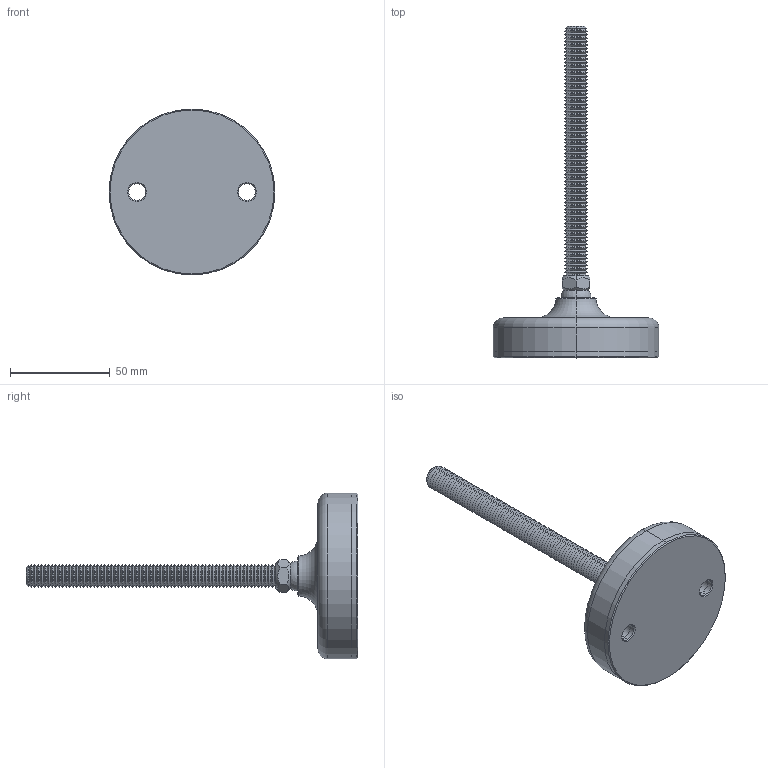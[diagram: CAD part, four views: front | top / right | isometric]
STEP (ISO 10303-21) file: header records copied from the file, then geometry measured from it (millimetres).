
FILE_DESCRIPTION (( 'STEP AP203' ), '1' );
FILE_NAME ('34724.W1203.step', '2019-11-28T22:09:10', ( '' ), ( '' ), 'SwSTEP 2.0', 'SolidWorks 2017', '' );
FILE_SCHEMA (( 'CONFIG_CONTROL_DESIGN' ));
Length unit declared in the file: millimetre
Products named in the file (4): Part2_34724.W1203; Part1_34724.W1203; 34724.W1203; Part3_34724.W1203
Assembly tree (3 placements, depth 2):
  34724.W1203
    Part1_34724.W1203
    Part2_34724.W1203
    Part3_34724.W1203
Bounding box: 83 x 166 x 83 mm (x, y, z)
Volume: 121935.3 mm3; surface area: 36537.7 mm2
Topology: 3 solids, 3 shells, 336 faces, 687 edges, 357 vertices
Faces by surface type: cone 302, plane 14, cylinder 12, sphere 4, torus 4
Entity records: 9058 total; most frequent: DIRECTION 1696, CARTESIAN_POINT 1516, ORIENTED_EDGE 1356, AXIS2_PLACEMENT_3D 688, EDGE_CURVE 678, VERTEX_POINT 352, EDGE_LOOP 348, CIRCLE 346
